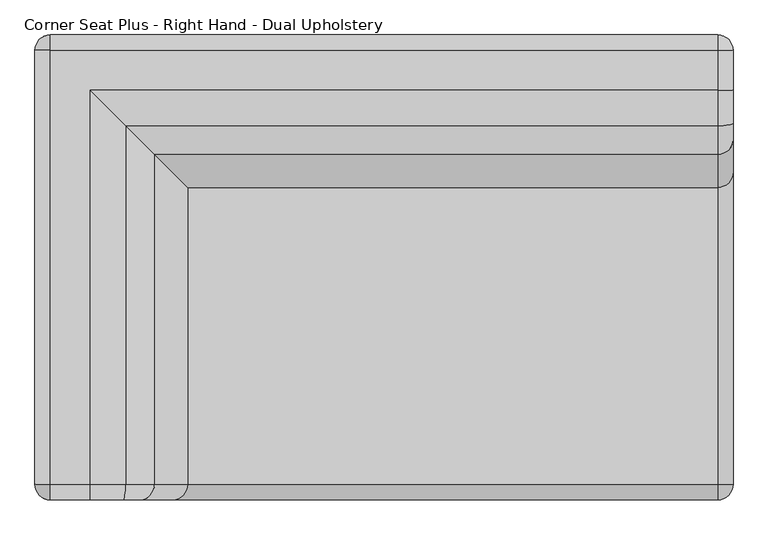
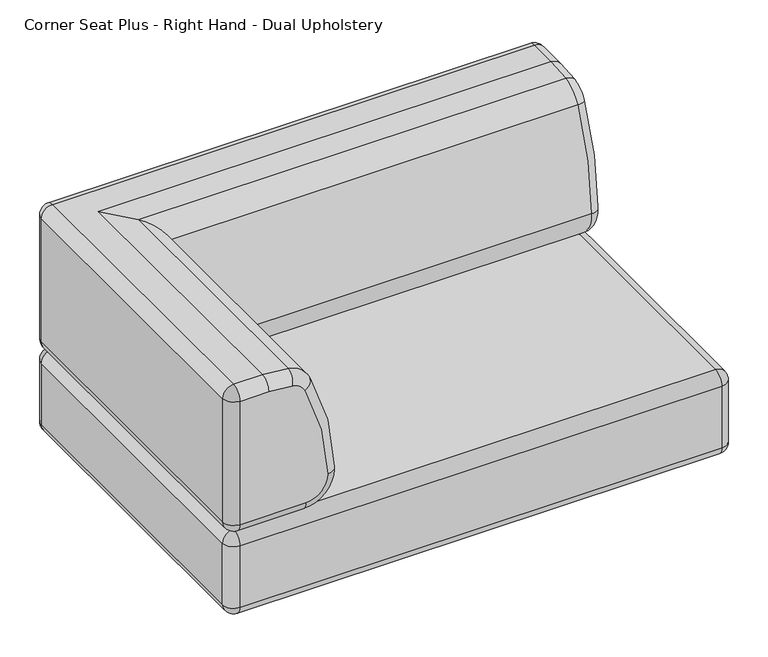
"""IFC4 building model written with IfcOpenShell, lengths in millimetres: furniture geometry, Stylex - Ambi Modular - Seat : Corner Seat Plus - Right Hand - Dual Upholstery."""

from ifc_helpers import new_model, si_unit, point, frame, origin, place, context, project, spatial, circle_curve, ellipse_curve, trimmed, source, transform, mapped, element, save
from ifc_brep_helpers import plane_surface, cylinder_surface, revolved_surface, advanced_brep


def corner_seat_plus_right_hand_dual_upholstery_e764b7b8(model_context):
    return source(origin(), model_context, "Body", "AdvancedBrep", [
        advanced_brep(
        [(546.1, 380.7944408, 773.9004878), (-546.0541429, 380.7944408, 773.9004878), (-546.0541429, 355.3485837, 799.3463449), (546.1, 355.3485837, 799.3463449), (-546.0541429, 380.7944408, 477.8149367), (546.1, 380.7944408, 477.8149367), (546.1, 355.3485837, 452.3690796), (-546.0541429, 355.3485837, 452.3690796), (546.1, 289.8044292, 799.3463449), (-480.5099884, 289.8044292, 799.3463449), (-422.7663638, 232.0608046, 794.4525268), (546.1, 232.0608046, 794.4525268), (-376.0691012, 185.3635421, 759.0490898), (546.1, 185.3635421, 759.0490898), (-321.4886677, 130.7831086, 530.5895428), (546.1, 130.7831086, 530.5895428), (-397.6618765, 206.9563173, 452.3690796), (546.1, 206.9563173, 452.3690796), (-397.6618765, -355.8055592, 452.3690796), (-546.0541429, -355.8055592, 452.3690796), (-480.5099884, -355.8055592, 799.3463449), (-422.7663638, -355.8055592, 794.4525268), (-376.0691012, -355.8055592, 759.0490898), (-321.4886677, -355.8055592, 530.5895428), (-546.0541429, -355.8055592, 799.3463449), (-571.5, -355.8055592, 477.8149367), (-571.5, 355.3485837, 477.8149367), (-571.5, 355.3485837, 773.9004878), (-571.5, -355.8055592, 773.9004878), (-397.6618765, -381.2514163, 477.8149367), (-546.0541429, -381.2514163, 477.8149367), (-346.9255783, -381.2514163, 529.9148392), (-399.0640835, -381.2514163, 748.1531073), (-427.0487182, -381.2514163, 769.3696026), (-480.5099884, -381.2514163, 773.9004878), (-546.0541429, -381.2514163, 773.9004878), (571.5458571, 355.3485837, 773.9004878), (571.5458571, 355.3485837, 477.8149367), (571.5458571, 289.8044292, 773.9004878), (571.5458571, 236.343159, 769.3696026), (571.5458571, 208.3585244, 748.1531073), (571.5458571, 156.2200192, 529.9148392), (571.5458571, 206.9563173, 477.8149367)],
        [
            (0, 1),
            (1, 2, circle_curve(frame((-546.0541429, 355.3485837, 773.9004878), z_axis=(1.0, 0.0, 0.0), x_axis=(0.0, -1.0, 0.0)), 25.4458571)),
            (2, 3),
            (3, 0, circle_curve(frame((546.1, 355.3485837, 773.9004878), z_axis=(-1.0, 0.0, 0.0), x_axis=(0.0, -1.0, 0.0)), 25.4458571)),
            (4, 5),
            (5, 6, circle_curve(frame((546.1, 355.3485837, 477.8149367), z_axis=(-1.0, 0.0, 0.0), x_axis=(0.0, -1.0, 0.0)), 25.4458571)),
            (6, 7),
            (7, 4, circle_curve(frame((-546.0541429, 355.3485837, 477.8149367), z_axis=(1.0, 0.0, 0.0), x_axis=(0.0, -1.0, 0.0)), 25.4458571)),
            (0, 5),
            (4, 1),
            (8, 9),
            (9, 10, ellipse_curve(frame((-480.5099884, 289.8044292, 456.2322814), z_axis=(0.7071067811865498, 0.7071067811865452, 0.0), x_axis=(0.7071067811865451, -0.7071067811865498, 0.0)), 485.236562, 343.1140635)),
            (10, 11),
            (11, 8, circle_curve(frame((546.1, 289.8044292, 456.2322814), z_axis=(-1.0, 0.0, 0.0), x_axis=(0.0, -1.0, 0.0)), 343.1140635)),
            (10, 12, ellipse_curve(frame((-433.4529562, 242.7473971, 731.858224), z_axis=(0.7071067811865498, 0.7071067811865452, 0.0), x_axis=(0.7071067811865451, -0.7071067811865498, 0.0)), 89.8025612, 63.5)),
            (12, 13),
            (13, 11, circle_curve(frame((546.1, 242.7473971, 731.858224), z_axis=(-1.0, 0.0, 0.0), x_axis=(0.0, -1.0, 0.0)), 63.5)),
            (12, 14, ellipse_curve(frame((-890.038375, 699.3328159, 515.5089941), z_axis=(0.7071067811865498, 0.7071067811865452, 0.0), x_axis=(0.7071067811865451, -0.7071067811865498, 0.0)), 804.3335037, 568.7496748)),
            (14, 15),
            (15, 13, circle_curve(frame((546.1, 699.3328159, 515.5089941), z_axis=(-1.0, 0.0, 0.0), x_axis=(0.0, -1.0, 0.0)), 568.7496748)),
            (14, 16, ellipse_curve(frame((-397.6618765, 206.9563173, 528.5690796), z_axis=(0.7071067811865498, 0.7071067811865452, 0.0), x_axis=(0.7071067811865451, -0.7071067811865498, 0.0)), 107.7630735, 76.2)),
            (16, 17),
            (17, 15, circle_curve(frame((546.1, 206.9563173, 528.5690796), z_axis=(-1.0, 0.0, 0.0), x_axis=(0.0, -1.0, 0.0)), 76.2)),
            (16, 18),
            (18, 19),
            (19, 7),
            (6, 17),
            (9, 20),
            (20, 21, circle_curve(frame((-480.5099884, -355.8055592, 456.2322814), z_axis=(0.0, 1.0, 0.0), x_axis=(1.0, 0.0, 0.0)), 343.1140635)),
            (21, 10),
            (21, 22, circle_curve(frame((-433.4529562, -355.8055592, 731.858224), z_axis=(0.0, 1.0, 0.0), x_axis=(1.0, 0.0, 0.0)), 63.5)),
            (22, 12),
            (22, 23, circle_curve(frame((-890.038375, -355.8055592, 515.5089941), z_axis=(0.0, 1.0, 0.0), x_axis=(1.0, 0.0, 0.0)), 568.7496748)),
            (23, 14),
            (23, 18, circle_curve(frame((-397.6618765, -355.8055592, 528.5690796), z_axis=(0.0, 1.0, 0.0), x_axis=(1.0, 0.0, 0.0)), 76.2)),
            (8, 3),
            (2, 24),
            (24, 20),
            (25, 26),
            (26, 7, circle_curve(frame((-546.0541429, 355.3485837, 477.8149367), z_axis=(0.0, -1.0, 0.0), x_axis=(0.0, 0.0, 1.0)), 25.4458571)),
            (19, 25, circle_curve(frame((-546.0541429, -355.8055592, 477.8149367), z_axis=(0.0, 1.0, 0.0), x_axis=(0.0, 0.0, 1.0)), 25.4458571)),
            (27, 28),
            (28, 24, circle_curve(frame((-546.0541429, -355.8055592, 773.9004878), z_axis=(0.0, 1.0, 0.0), x_axis=(0.0, 0.0, 1.0)), 25.4458571)),
            (2, 27, circle_curve(frame((-546.0541429, 355.3485837, 773.9004878), z_axis=(0.0, -1.0, 0.0), x_axis=(0.0, 0.0, 1.0)), 25.4458571)),
            (25, 28),
            (27, 26),
            (26, 4, circle_curve(frame((-546.0541429, 355.3485837, 477.8149367), z_axis=(0.0, 0.0, -1.0), x_axis=(0.0, 1.0, 0.0)), 25.4458571)),
            (27, 1, circle_curve(frame((-546.0541429, 355.3485837, 773.9004878), z_axis=(0.0, 0.0, -1.0), x_axis=(0.0, 1.0, 0.0)), 25.4458571)),
            (18, 29, circle_curve(frame((-397.6618765, -355.8055592, 477.8149367), z_axis=(-1.0, 0.0, 0.0), x_axis=(0.0, 0.0, 1.0)), 25.4458571)),
            (29, 30),
            (30, 19, circle_curve(frame((-546.0541429, -355.8055592, 477.8149367), z_axis=(1.0, 0.0, 0.0), x_axis=(0.0, 0.0, 1.0)), 25.4458571)),
            (23, 31, circle_curve(frame((-346.9255783, -355.8055592, 529.9148392), z_axis=(0.026515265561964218, 0.0, -0.9996484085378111), x_axis=(-0.9996484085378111, 0.0, -0.026515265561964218)), 25.4458571)),
            (31, 29, circle_curve(frame((-397.6618765, -381.2514163, 528.5690796), z_axis=(0.0, 1.0, 0.0), x_axis=(0.0, 0.0, -1.0)), 50.7541429)),
            (22, 32, circle_curve(frame((-399.0640835, -355.8055592, 748.1531073), z_axis=(0.4282026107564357, 0.0, -0.9036827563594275), x_axis=(-0.9036827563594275, 0.0, -0.4282026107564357)), 25.4458571)),
            (32, 31, circle_curve(frame((-890.038375, -381.2514163, 515.5089941), z_axis=(0.0, 1.0, 0.0), x_axis=(0.9996484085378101, 0.0, 0.026515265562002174)), 543.3038177)),
            (21, 33, circle_curve(frame((-427.0487182, -355.8055592, 769.3696026), z_axis=(0.9857370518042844, 0.0, -0.16829279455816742), x_axis=(-0.16829279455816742, 0.0, -0.9857370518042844)), 25.4458571)),
            (33, 32, circle_curve(frame((-433.4529562, -381.2514163, 731.858224), z_axis=(0.0, 1.0, 0.0), x_axis=(0.9036827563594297, 0.0, 0.42820261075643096)), 38.0541429)),
            (20, 34, circle_curve(frame((-480.5099884, -355.8055592, 773.9004878), z_axis=(1.0, 0.0, 0.0), x_axis=(0.0, 0.0, -1.0)), 25.4458571)),
            (34, 33, circle_curve(frame((-480.5099884, -381.2514163, 456.2322814), z_axis=(0.0, 1.0, 0.0), x_axis=(0.1682927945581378, 0.0, 0.9857370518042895)), 317.6682064)),
            (24, 35, circle_curve(frame((-546.0541429, -355.8055592, 773.9004878), z_axis=(1.0, 0.0, 0.0), x_axis=(0.0, 0.0, -1.0)), 25.4458571)),
            (35, 34),
            (35, 30),
            (30, 25, circle_curve(frame((-546.0541429, -355.8055592, 477.8149367), z_axis=(0.0, 0.0, -1.0), x_axis=(0.0, -1.0, 0.0)), 25.4458571)),
            (35, 28, circle_curve(frame((-546.0541429, -355.8055592, 773.9004878), z_axis=(0.0, 0.0, -1.0), x_axis=(0.0, -1.0, 0.0)), 25.4458571)),
            (36, 37),
            (37, 5, circle_curve(frame((546.1, 355.3485837, 477.8149367), z_axis=(0.0, 0.0, 1.0), x_axis=(0.0, 1.0, 0.0)), 25.4458571)),
            (0, 36, circle_curve(frame((546.1, 355.3485837, 773.9004878), z_axis=(0.0, 0.0, -1.0), x_axis=(0.0, 1.0, 0.0)), 25.4458571)),
            (37, 6, circle_curve(frame((546.1, 355.3485837, 477.8149367), z_axis=(0.0, 1.0, 0.0), x_axis=(-1.0, 0.0, 0.0)), 25.4458571)),
            (3, 36, circle_curve(frame((546.1, 355.3485837, 773.9004878), z_axis=(0.0, 1.0, 0.0), x_axis=(-1.0, 0.0, 0.0)), 25.4458571)),
            (8, 38, circle_curve(frame((546.1, 289.8044292, 773.9004878), z_axis=(0.0, 1.0, 0.0), x_axis=(0.0, 0.0, 1.0)), 25.4458571)),
            (38, 36),
            (38, 39, circle_curve(frame((571.5458571, 289.8044292, 456.2322814), z_axis=(1.0, 0.0, 0.0), x_axis=(0.0, 0.0, 1.0)), 317.6682064)),
            (39, 40, circle_curve(frame((571.5458571, 242.7473971, 731.858224), z_axis=(1.0, 0.0, 0.0), x_axis=(0.0, -0.16829279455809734, 0.9857370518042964)), 38.0541429)),
            (40, 41, circle_curve(frame((571.5458571, 699.3328159, 515.5089941), z_axis=(1.0, 0.0, 0.0), x_axis=(0.0, -0.9036827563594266, 0.42820261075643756)), 543.3038177)),
            (41, 42, circle_curve(frame((571.5458571, 206.9563173, 528.5690796), z_axis=(1.0, 0.0, 0.0), x_axis=(0.0, -0.9996484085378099, 0.02651526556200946)), 50.7541429)),
            (42, 37),
            (11, 39, circle_curve(frame((546.1, 236.343159, 769.3696026), z_axis=(0.0, 0.9857370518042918, 0.16829279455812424), x_axis=(0.0, -0.16829279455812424, 0.9857370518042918)), 25.4458571)),
            (13, 40, circle_curve(frame((546.1, 208.3585244, 748.1531073), z_axis=(0.0, 0.42820261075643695, 0.9036827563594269), x_axis=(0.0, -0.9036827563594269, 0.42820261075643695)), 25.4458571)),
            (15, 41, circle_curve(frame((546.1, 156.2200192, 529.9148392), z_axis=(0.0, 0.02651526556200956, 0.9996484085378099), x_axis=(0.0, -0.9996484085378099, 0.02651526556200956)), 25.4458571)),
            (17, 42, circle_curve(frame((546.1, 206.9563173, 477.8149367), z_axis=(0.0, -1.0, 0.0), x_axis=(0.0, 0.0, -1.0)), 25.4458571)),
        ],
        [
            cylinder_surface(frame((546.1, 355.3485837, 773.9004878), z_axis=(-1.0, 0.0, 0.0), x_axis=(0.0, -1.0, 0.0)), 25.4458571),
            cylinder_surface(frame((546.1, 355.3485837, 477.8149367), z_axis=(-1.0, 0.0, 0.0), x_axis=(0.0, -1.0, 0.0)), 25.4458571),
            plane_surface(frame((-546.0541429, 380.7944408, 773.9004878), z_axis=(0.0, 1.0, 0.0), x_axis=(1.0, 0.0, 0.0))),
            cylinder_surface(frame((546.1, 289.8044292, 456.2322814), z_axis=(1.0, 0.0, 0.0), x_axis=(0.0, -1.0, 0.0)), 343.1140635),
            cylinder_surface(frame((546.1, 242.7473971, 731.858224), z_axis=(1.0, 0.0, 0.0), x_axis=(0.0, -1.0, 0.0)), 63.5),
            cylinder_surface(frame((546.1, 699.3328159, 515.5089941), z_axis=(1.0, 0.0, 0.0), x_axis=(0.0, -1.0, 0.0)), 568.7496748),
            cylinder_surface(frame((546.1, 206.9563173, 528.5690796), z_axis=(1.0, 0.0, 0.0), x_axis=(0.0, -1.0, 0.0)), 76.2),
            plane_surface(frame((546.1, 206.9563173, 452.3690796), z_axis=(0.0, 0.0, -1.0), x_axis=(-1.0, 0.0, 0.0))),
            cylinder_surface(frame((-480.5099884, 380.7944408, 456.2322814), z_axis=(0.0, 1.0, 0.0), x_axis=(1.0, 0.0, 0.0)), 343.1140635),
            cylinder_surface(frame((-433.4529562, 380.7944408, 731.858224), z_axis=(0.0, 1.0, 0.0), x_axis=(1.0, 0.0, 0.0)), 63.5),
            cylinder_surface(frame((-890.038375, 380.7944408, 515.5089941), z_axis=(0.0, 1.0, 0.0), x_axis=(1.0, 0.0, 0.0)), 568.7496748),
            cylinder_surface(frame((-397.6618765, 380.7944408, 528.5690796), z_axis=(0.0, 1.0, 0.0), x_axis=(1.0, 0.0, 0.0)), 76.2),
            plane_surface(frame((546.1, 355.3485837, 799.3463449), z_axis=(0.0, 0.0, 1.0), x_axis=(-1.0, 0.0, 0.0))),
            cylinder_surface(frame((-546.0541429, 355.3485837, 477.8149367), z_axis=(0.0, -1.0, 0.0), x_axis=(0.0, 0.0, 1.0)), 25.4458571),
            cylinder_surface(frame((-546.0541429, 355.3485837, 773.9004878), z_axis=(0.0, -1.0, 0.0), x_axis=(0.0, 0.0, 1.0)), 25.4458571),
            plane_surface(frame((-571.5, -355.8055592, 773.9004878), z_axis=(-1.0, 0.0, 0.0), x_axis=(0.0, 1.0, 0.0))),
            revolved_surface(trimmed(ellipse_curve(frame((-546.0541429, 355.3485837, 477.8149367), z_axis=(-1.0, 0.0, 0.0), x_axis=(0.0, -1.0, 0.0)), 25.4458571, 25.4458571), [point((-546.0541429, 380.7944408, 477.8149367))], [point((-546.0541429, 355.3485837, 452.3690796))], True, "CARTESIAN"), (-546.0541429, 355.3485837, 799.3463449), (0.0, 0.0, -1.0)),
            cylinder_surface(frame((-546.0541429, 355.3485837, 799.3463449), z_axis=(0.0, 0.0, -1.0), x_axis=(0.0, 1.0, 0.0)), 25.4458571),
            revolved_surface(trimmed(ellipse_curve(frame((-546.0541429, 355.3485837, 773.9004878), z_axis=(-1.0, 0.0, 0.0), x_axis=(0.0, -1.0, 0.0)), 25.4458571, 25.4458571), [point((-546.0541429, 355.3485837, 799.3463449))], [point((-546.0541429, 380.7944408, 773.9004878))], True, "CARTESIAN"), (-546.0541429, 355.3485837, 799.3463449), (0.0, 0.0, -1.0)),
            cylinder_surface(frame((-546.0541429, -355.8055592, 477.8149367), z_axis=(-1.0, 0.0, 0.0), x_axis=(0.0, 0.0, 1.0)), 25.4458571),
            revolved_surface(trimmed(ellipse_curve(frame((-397.6618765, -355.8055592, 477.8149367), z_axis=(-1.0, 0.0, 0.0), x_axis=(0.0, 0.0, 1.0)), 25.4458571, 25.4458571), [point((-397.6618765, -355.8055592, 452.3690796))], [point((-397.6618765, -381.2514163, 477.8149367))], True, "CARTESIAN"), (-397.6618765, -355.8055592, 528.5690796), (0.0, -1.0, 0.0)),
            revolved_surface(trimmed(ellipse_curve(frame((-346.9255783, -355.8055592, 529.9148392), z_axis=(0.02651526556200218, 0.0, -0.9996484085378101), x_axis=(-0.9996484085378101, 0.0, -0.02651526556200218)), 25.4458571, 25.4458571), [point((-321.4886677, -355.8055592, 530.5895428))], [point((-346.9255783, -381.2514163, 529.9148392))], True, "CARTESIAN"), (-890.038375, -355.8055592, 515.5089941), (0.0, -1.0, 0.0)),
            revolved_surface(trimmed(ellipse_curve(frame((-399.0640835, -355.8055592, 748.1531073), z_axis=(0.42820261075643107, 0.0, -0.9036827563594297), x_axis=(-0.9036827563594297, 0.0, -0.42820261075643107)), 25.4458571, 25.4458571), [point((-376.0691012, -355.8055592, 759.0490898))], [point((-399.0640835, -381.2514163, 748.1531073))], True, "CARTESIAN"), (-433.4529562, -355.8055592, 731.858224), (0.0, -1.0, 0.0)),
            revolved_surface(trimmed(ellipse_curve(frame((-427.0487182, -355.8055592, 769.3696026), z_axis=(0.9857370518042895, 0.0, -0.16829279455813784), x_axis=(-0.16829279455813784, 0.0, -0.9857370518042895)), 25.4458571, 25.4458571), [point((-422.7663638, -355.8055592, 794.4525268))], [point((-427.0487182, -381.2514163, 769.3696026))], True, "CARTESIAN"), (-480.5099884, -355.8055592, 456.2322814), (0.0, -1.0, 0.0)),
            cylinder_surface(frame((-480.5099884, -355.8055592, 773.9004878), z_axis=(1.0, 0.0, 0.0), x_axis=(0.0, 0.0, -1.0)), 25.4458571),
            plane_surface(frame((-433.4529562, -381.2514163, 769.9123669), z_axis=(0.0, -1.0, 0.0), x_axis=(-1.0, 0.0, 0.0))),
            revolved_surface(trimmed(ellipse_curve(frame((-546.0541429, -355.8055592, 477.8149367), z_axis=(-1.0, 0.0, 0.0), x_axis=(0.0, 1.0, 0.0)), 25.4458571, 25.4458571), [point((-546.0541429, -355.8055592, 452.3690796))], [point((-546.0541429, -381.2514163, 477.8149367))], True, "CARTESIAN"), (-546.0541429, -355.8055592, 799.3463449), (0.0, 0.0, 1.0)),
            cylinder_surface(frame((-546.0541429, -355.8055592, 799.3463449), z_axis=(0.0, 0.0, 1.0), x_axis=(0.0, -1.0, 0.0)), 25.4458571),
            revolved_surface(trimmed(ellipse_curve(frame((-546.0541429, -355.8055592, 773.9004878), z_axis=(-1.0, 0.0, 0.0), x_axis=(0.0, 1.0, 0.0)), 25.4458571, 25.4458571), [point((-546.0541429, -381.2514163, 773.9004878))], [point((-546.0541429, -355.8055592, 799.3463449))], True, "CARTESIAN"), (-546.0541429, -355.8055592, 799.3463449), (0.0, 0.0, 1.0)),
            cylinder_surface(frame((546.1, 355.3485837, 799.3463449), z_axis=(0.0, 0.0, -1.0), x_axis=(0.0, 1.0, 0.0)), 25.4458571),
            revolved_surface(trimmed(ellipse_curve(frame((546.1, 355.3485837, 477.8149367), z_axis=(-1.0, 0.0, 0.0), x_axis=(0.0, -1.0, 0.0)), 25.4458571, 25.4458571), [point((546.1, 380.7944408, 477.8149367))], [point((546.1, 355.3485837, 452.3690796))], True, "CARTESIAN"), (546.1, 355.3485837, 799.3463449), (0.0, 0.0, -1.0)),
            revolved_surface(trimmed(ellipse_curve(frame((546.1, 355.3485837, 773.9004878), z_axis=(-1.0, 0.0, 0.0), x_axis=(0.0, -1.0, 0.0)), 25.4458571, 25.4458571), [point((546.1, 355.3485837, 799.3463449))], [point((546.1, 380.7944408, 773.9004878))], True, "CARTESIAN"), (546.1, 355.3485837, 799.3463449), (0.0, 0.0, -1.0)),
            cylinder_surface(frame((546.1, 355.3485837, 773.9004878), z_axis=(0.0, 1.0, 0.0), x_axis=(0.0, 0.0, 1.0)), 25.4458571),
            plane_surface(frame((571.5458571, 355.3485837, 773.9004878), z_axis=(1.0, 0.0, 0.0), x_axis=(0.0, -1.0, 0.0))),
            revolved_surface(trimmed(ellipse_curve(frame((546.1, 289.8044292, 773.9004878), z_axis=(0.0, 1.0, 0.0), x_axis=(0.0, 0.0, 1.0)), 25.4458571, 25.4458571), [point((546.1, 289.8044292, 799.3463449))], [point((571.5458571, 289.8044292, 773.9004878))], True, "CARTESIAN"), (546.1, 289.8044292, 456.2322814), (1.0, 0.0, 0.0)),
            revolved_surface(trimmed(ellipse_curve(frame((546.1, 236.343159, 769.3696026), z_axis=(0.0, 0.9857370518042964, 0.16829279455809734), x_axis=(0.0, -0.16829279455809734, 0.9857370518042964)), 25.4458571, 25.4458571), [point((546.1, 232.0608046, 794.4525268))], [point((571.5458571, 236.343159, 769.3696026))], True, "CARTESIAN"), (546.1, 242.7473971, 731.858224), (1.0, 0.0, 0.0)),
            revolved_surface(trimmed(ellipse_curve(frame((546.1, 208.3585244, 748.1531073), z_axis=(0.0, 0.4282026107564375, 0.9036827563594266), x_axis=(0.0, -0.9036827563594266, 0.4282026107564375)), 25.4458571, 25.4458571), [point((546.1, 185.3635421, 759.0490898))], [point((571.5458571, 208.3585244, 748.1531073))], True, "CARTESIAN"), (546.1, 699.3328159, 515.5089941), (1.0, 0.0, 0.0)),
            revolved_surface(trimmed(ellipse_curve(frame((546.1, 156.2200192, 529.9148392), z_axis=(0.0, 0.026515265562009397, 0.9996484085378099), x_axis=(0.0, -0.9996484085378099, 0.026515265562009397)), 25.4458571, 25.4458571), [point((546.1, 130.7831086, 530.5895428))], [point((571.5458571, 156.2200192, 529.9148392))], True, "CARTESIAN"), (546.1, 206.9563173, 528.5690796), (1.0, 0.0, 0.0)),
            cylinder_surface(frame((546.1, 206.9563173, 477.8149367), z_axis=(0.0, -1.0, 0.0), x_axis=(0.0, 0.0, -1.0)), 25.4458571),
        ],
        [
            (0, [[1, 2, 3, 4]]),
            (1, [[5, 6, 7, 8]]),
            (2, [[-1, 9, -5, 10]]),
            (3, [[11, 12, 13, 14]]),
            (4, [[-13, 15, 16, 17]]),
            (5, [[-16, 18, 19, 20]]),
            (6, [[-19, 21, 22, 23]]),
            (7, [[-22, 24, 25, 26, -7, 27]]),
            (8, [[-12, 28, 29, 30]]),
            (9, [[-15, -30, 31, 32]]),
            (10, [[-18, -32, 33, 34]]),
            (11, [[-21, -34, 35, -24]]),
            (12, [[-11, 36, -3, 37, 38, -28]]),
            (13, [[39, 40, -26, 41]]),
            (14, [[42, 43, -37, 44]]),
            (15, [[-39, 45, -42, 46]]),
            (16, [[47, -8, -40]]),
            (17, [[-47, -46, 48, -10]]),
            (18, [[-48, -44, -2]]),
            (19, [[49, 50, 51, -25]]),
            (20, [[-49, -35, 52, 53]]),
            (21, [[-52, -33, 54, 55]]),
            (22, [[-54, -31, 56, 57]]),
            (23, [[-56, -29, 58, 59]]),
            (24, [[-58, -38, 60, 61]]),
            (25, [[-50, -53, -55, -57, -59, -61, 62]]),
            (26, [[63, -41, -51]]),
            (27, [[-63, -62, 64, -45]]),
            (28, [[-64, -60, -43]]),
            (29, [[65, 66, -9, 67]]),
            (30, [[-66, 68, -6]]),
            (31, [[-67, -4, 69]]),
            (32, [[70, 71, -69, -36]]),
            (33, [[-71, 72, 73, 74, 75, 76, -65]]),
            (34, [[-70, -14, 77, -72]]),
            (35, [[-73, -77, -17, 78]]),
            (36, [[-74, -78, -20, 79]]),
            (37, [[-75, -79, -23, 80]]),
            (38, [[-76, -80, -27, -68]]),
        ],
    ),
        advanced_brep(
        [(546.1, -381.2055592, 279.4), (546.1, -381.2055592, 426.9232225), (-546.1, -381.2055592, 426.9232225), (-546.1, -381.2055592, 279.4), (546.1, -355.8055592, 452.3232225), (546.1, 355.3944408, 452.3232225), (-546.1, 355.3944408, 452.3232225), (-546.1, -355.8055592, 452.3232225), (546.1, 380.7944408, 426.9232225), (546.1, 380.7944408, 279.4), (-546.1, 380.7944408, 279.4), (-546.1, 380.7944408, 426.9232225), (546.1, 355.3944408, 254.0), (546.1, -355.8055592, 254.0), (-546.1, -355.8055592, 254.0), (-546.1, 355.3944408, 254.0), (-571.5, 355.3944408, 426.9232225), (-571.5, -355.8055592, 426.9232225), (571.5, -355.8055592, 426.9232225), (571.5, 355.3944408, 426.9232225), (-571.5, 355.3944408, 279.4), (571.5, 355.3944408, 279.4), (-571.5, -355.8055592, 279.4), (571.5, -355.8055592, 279.4)],
        [
            (0, 1),
            (1, 2),
            (2, 3),
            (3, 0),
            (4, 5),
            (5, 6),
            (6, 7),
            (7, 4),
            (8, 9),
            (9, 10),
            (10, 11),
            (11, 8),
            (12, 13),
            (13, 14),
            (14, 15),
            (15, 12),
            (6, 16, circle_curve(frame((-546.1, 355.3944408, 426.9232225), z_axis=(0.0, -1.0, 0.0), x_axis=(0.0, 0.0, 1.0)), 25.4)),
            (16, 17),
            (17, 7, circle_curve(frame((-546.1, -355.8055592, 426.9232225), z_axis=(0.0, 1.0, 0.0), x_axis=(0.0, 0.0, 1.0)), 25.4)),
            (4, 18, circle_curve(frame((546.1, -355.8055592, 426.9232225), z_axis=(0.0, 1.0, 0.0), x_axis=(0.0, 0.0, 1.0)), 25.4)),
            (18, 19),
            (19, 5, circle_curve(frame((546.1, 355.3944408, 426.9232225), z_axis=(0.0, -1.0, 0.0), x_axis=(0.0, 0.0, 1.0)), 25.4)),
            (10, 20, circle_curve(frame((-546.1, 355.3944408, 279.4), z_axis=(0.0, 0.0, 1.0), x_axis=(0.0, 1.0, 0.0)), 25.4)),
            (20, 16),
            (16, 11, circle_curve(frame((-546.1, 355.3944408, 426.9232225), z_axis=(0.0, 0.0, -1.0), x_axis=(0.0, 1.0, 0.0)), 25.4)),
            (8, 19, circle_curve(frame((546.1, 355.3944408, 426.9232225), z_axis=(0.0, 0.0, -1.0), x_axis=(0.0, 1.0, 0.0)), 25.4)),
            (19, 21),
            (21, 9, circle_curve(frame((546.1, 355.3944408, 279.4), z_axis=(0.0, 0.0, 1.0), x_axis=(0.0, 1.0, 0.0)), 25.4)),
            (14, 22, circle_curve(frame((-546.1, -355.8055592, 279.4), z_axis=(0.0, 1.0, 0.0), x_axis=(0.0, 0.0, -1.0)), 25.4)),
            (22, 20),
            (20, 15, circle_curve(frame((-546.1, 355.3944408, 279.4), z_axis=(0.0, -1.0, 0.0), x_axis=(0.0, 0.0, -1.0)), 25.4)),
            (12, 21, circle_curve(frame((546.1, 355.3944408, 279.4), z_axis=(0.0, -1.0, 0.0), x_axis=(0.0, 0.0, -1.0)), 25.4)),
            (21, 23),
            (23, 13, circle_curve(frame((546.1, -355.8055592, 279.4), z_axis=(0.0, 1.0, 0.0), x_axis=(0.0, 0.0, -1.0)), 25.4)),
            (2, 17, circle_curve(frame((-546.1, -355.8055592, 426.9232225), z_axis=(0.0, 0.0, -1.0), x_axis=(0.0, -1.0, 0.0)), 25.4)),
            (17, 22),
            (22, 3, circle_curve(frame((-546.1, -355.8055592, 279.4), z_axis=(0.0, 0.0, 1.0), x_axis=(0.0, -1.0, 0.0)), 25.4)),
            (0, 23, circle_curve(frame((546.1, -355.8055592, 279.4), z_axis=(0.0, 0.0, 1.0), x_axis=(0.0, -1.0, 0.0)), 25.4)),
            (23, 18),
            (18, 1, circle_curve(frame((546.1, -355.8055592, 426.9232225), z_axis=(0.0, 0.0, -1.0), x_axis=(0.0, -1.0, 0.0)), 25.4)),
            (1, 4, circle_curve(frame((546.1, -355.8055592, 426.9232225), z_axis=(-1.0, 0.0, 0.0), x_axis=(0.0, 0.0, 1.0)), 25.4)),
            (7, 2, circle_curve(frame((-546.1, -355.8055592, 426.9232225), z_axis=(1.0, 0.0, 0.0), x_axis=(0.0, 0.0, 1.0)), 25.4)),
            (3, 14, circle_curve(frame((-546.1, -355.8055592, 279.4), z_axis=(1.0, 0.0, 0.0), x_axis=(0.0, 0.0, -1.0)), 25.4)),
            (13, 0, circle_curve(frame((546.1, -355.8055592, 279.4), z_axis=(-1.0, 0.0, 0.0), x_axis=(0.0, 0.0, -1.0)), 25.4)),
            (9, 12, circle_curve(frame((546.1, 355.3944408, 279.4), z_axis=(-1.0, 0.0, 0.0), x_axis=(0.0, 0.0, -1.0)), 25.4)),
            (15, 10, circle_curve(frame((-546.1, 355.3944408, 279.4), z_axis=(1.0, 0.0, 0.0), x_axis=(0.0, 0.0, -1.0)), 25.4)),
            (6, 11, circle_curve(frame((-546.1, 355.3944408, 426.9232225), z_axis=(-1.0, 0.0, 0.0), x_axis=(0.0, 0.0, 1.0)), 25.4)),
            (8, 5, circle_curve(frame((546.1, 355.3944408, 426.9232225), z_axis=(1.0, 0.0, 0.0), x_axis=(0.0, 0.0, 1.0)), 25.4)),
        ],
        [
            plane_surface(frame((546.1, -381.2055592, 254.0), z_axis=(0.0, -1.0, 0.0), x_axis=(0.0, 0.0, 1.0))),
            plane_surface(frame((546.1, -381.2055592, 452.3232225), z_axis=(0.0, 0.0, 1.0), x_axis=(0.0, 1.0, 0.0))),
            plane_surface(frame((546.1, 380.7944408, 452.3232225), z_axis=(0.0, 1.0, 0.0), x_axis=(0.0, 0.0, -1.0))),
            plane_surface(frame((546.1, 380.7944408, 254.0), z_axis=(0.0, 0.0, -1.0), x_axis=(0.0, -1.0, 0.0))),
            cylinder_surface(frame((-546.1, -381.2055592, 426.9232225), z_axis=(0.0, -1.0, 0.0), x_axis=(0.0, 0.0, 1.0)), 25.4),
            cylinder_surface(frame((546.1, -381.2055592, 426.9232225), z_axis=(0.0, -1.0, 0.0), x_axis=(0.0, 0.0, 1.0)), 25.4),
            cylinder_surface(frame((-546.1, 355.3944408, 452.3232225), z_axis=(0.0, 0.0, 1.0), x_axis=(0.0, 1.0, 0.0)), 25.4),
            cylinder_surface(frame((546.1, 355.3944408, 452.3232225), z_axis=(0.0, 0.0, 1.0), x_axis=(0.0, 1.0, 0.0)), 25.4),
            cylinder_surface(frame((-546.1, 380.7944408, 279.4), z_axis=(0.0, 1.0, 0.0), x_axis=(0.0, 0.0, -1.0)), 25.4),
            cylinder_surface(frame((546.1, 380.7944408, 279.4), z_axis=(0.0, 1.0, 0.0), x_axis=(0.0, 0.0, -1.0)), 25.4),
            cylinder_surface(frame((-546.1, -355.8055592, 254.0), z_axis=(0.0, 0.0, -1.0), x_axis=(0.0, -1.0, 0.0)), 25.4),
            cylinder_surface(frame((546.1, -355.8055592, 254.0), z_axis=(0.0, 0.0, -1.0), x_axis=(0.0, -1.0, 0.0)), 25.4),
            plane_surface(frame((571.5, 355.3944408, 426.9232225), z_axis=(1.0, 0.0, 0.0), x_axis=(0.0, 0.0, 1.0))),
            plane_surface(frame((-571.5, 355.3944408, 426.9232225), z_axis=(-1.0, 0.0, 0.0), x_axis=(0.0, 0.0, -1.0))),
            cylinder_surface(frame((-571.5, -355.8055592, 426.9232225), z_axis=(-1.0, 0.0, 0.0), x_axis=(0.0, 0.0, 1.0)), 25.4),
            revolved_surface(trimmed(ellipse_curve(frame((546.1, -355.8055592, 426.9232225), z_axis=(0.0, -1.0, 0.0), x_axis=(0.0, 0.0, -1.0)), 25.4, 25.4), [point((571.5, -355.8055592, 426.9232225))], [point((546.1, -355.8055592, 452.3232225))], True, "CARTESIAN"), (-571.5, -355.8055592, 426.9232225), (-1.0, 0.0, 0.0)),
            revolved_surface(trimmed(ellipse_curve(frame((-546.1, -355.8055592, 426.9232225), z_axis=(0.0, -1.0, 0.0), x_axis=(0.0, 0.0, -1.0)), 25.4, 25.4), [point((-546.1, -355.8055592, 452.3232225))], [point((-571.5, -355.8055592, 426.9232225))], True, "CARTESIAN"), (-571.5, -355.8055592, 426.9232225), (-1.0, 0.0, 0.0)),
            cylinder_surface(frame((571.5, -355.8055592, 279.4), z_axis=(1.0, 0.0, 0.0), x_axis=(0.0, 0.0, -1.0)), 25.4),
            revolved_surface(trimmed(ellipse_curve(frame((-546.1, -355.8055592, 279.4), z_axis=(0.0, -1.0, 0.0), x_axis=(0.0, 0.0, 1.0)), 25.4, 25.4), [point((-571.5, -355.8055592, 279.4))], [point((-546.1, -355.8055592, 254.0))], True, "CARTESIAN"), (571.5, -355.8055592, 279.4), (1.0, 0.0, 0.0)),
            revolved_surface(trimmed(ellipse_curve(frame((546.1, -355.8055592, 279.4), z_axis=(0.0, -1.0, 0.0), x_axis=(0.0, 0.0, 1.0)), 25.4, 25.4), [point((546.1, -355.8055592, 254.0))], [point((571.5, -355.8055592, 279.4))], True, "CARTESIAN"), (571.5, -355.8055592, 279.4), (1.0, 0.0, 0.0)),
            cylinder_surface(frame((571.5, 355.3944408, 279.4), z_axis=(-1.0, 0.0, 0.0), x_axis=(0.0, 0.0, -1.0)), 25.4),
            revolved_surface(trimmed(ellipse_curve(frame((546.1, 355.3944408, 279.4), z_axis=(0.0, 1.0, 0.0), x_axis=(0.0, 0.0, 1.0)), 25.4, 25.4), [point((571.5, 355.3944408, 279.4))], [point((546.1, 355.3944408, 254.0))], True, "CARTESIAN"), (571.5, 355.3944408, 279.4), (-1.0, 0.0, 0.0)),
            revolved_surface(trimmed(ellipse_curve(frame((-546.1, 355.3944408, 279.4), z_axis=(0.0, 1.0, 0.0), x_axis=(0.0, 0.0, 1.0)), 25.4, 25.4), [point((-546.1, 355.3944408, 254.0))], [point((-571.5, 355.3944408, 279.4))], True, "CARTESIAN"), (571.5, 355.3944408, 279.4), (-1.0, 0.0, 0.0)),
            revolved_surface(trimmed(ellipse_curve(frame((-546.1, 355.3944408, 426.9232225), z_axis=(0.0, 1.0, 0.0), x_axis=(0.0, 0.0, -1.0)), 25.4, 25.4), [point((-571.5, 355.3944408, 426.9232225))], [point((-546.1, 355.3944408, 452.3232225))], True, "CARTESIAN"), (571.5, 355.3944408, 426.9232225), (1.0, 0.0, 0.0)),
            revolved_surface(trimmed(ellipse_curve(frame((546.1, 355.3944408, 426.9232225), z_axis=(0.0, 1.0, 0.0), x_axis=(0.0, 0.0, -1.0)), 25.4, 25.4), [point((546.1, 355.3944408, 452.3232225))], [point((571.5, 355.3944408, 426.9232225))], True, "CARTESIAN"), (571.5, 355.3944408, 426.9232225), (1.0, 0.0, 0.0)),
            cylinder_surface(frame((571.5, 355.3944408, 426.9232225), z_axis=(1.0, 0.0, 0.0), x_axis=(0.0, 0.0, 1.0)), 25.4),
        ],
        [
            (0, [[1, 2, 3, 4]]),
            (1, [[5, 6, 7, 8]]),
            (2, [[9, 10, 11, 12]]),
            (3, [[13, 14, 15, 16]]),
            (4, [[-7, 17, 18, 19]]),
            (5, [[-5, 20, 21, 22]]),
            (6, [[-11, 23, 24, 25]]),
            (7, [[-9, 26, 27, 28]]),
            (8, [[-15, 29, 30, 31]]),
            (9, [[-13, 32, 33, 34]]),
            (10, [[-3, 35, 36, 37]]),
            (11, [[-1, 38, 39, 40]]),
            (12, [[-21, -39, -33, -27]]),
            (13, [[-18, -24, -30, -36]]),
            (14, [[41, -8, 42, -2]]),
            (15, [[-41, -40, -20]]),
            (16, [[-42, -19, -35]]),
            (17, [[43, -14, 44, -4]]),
            (18, [[-43, -37, -29]]),
            (19, [[-44, -34, -38]]),
            (20, [[45, -16, 46, -10]]),
            (21, [[-45, -28, -32]]),
            (22, [[-46, -31, -23]]),
            (23, [[47, -25, -17]]),
            (24, [[48, -22, -26]]),
            (25, [[-47, -6, -48, -12]]),
        ],
    ),
    ])


if __name__ == "__main__":
    model = new_model("IFC4")
    model_context = context("Model", 3, world=origin())
    ifc_project = project(units=[si_unit("LENGTHUNIT", "METRE", prefix="MILLI")], contexts=[model_context])
    site = spatial("IfcSite", under=ifc_project)
    building = spatial("IfcBuilding", under=site)
    placement = place(None, origin())
    corner_seat_plus_right_hand_dual_upholstery_shape = corner_seat_plus_right_hand_dual_upholstery_e764b7b8(model_context)
    element("IfcFurniture", 1, ObjectType="Stylex - Ambi Modular - Seat : Corner Seat Plus - Right Hand - Dual Upholstery", at=placement, inside=building, context=model_context, shape_type="MappedRepresentation", body=[
        mapped(corner_seat_plus_right_hand_dual_upholstery_shape, transform((0.0, 0.0, 0.0), x_axis=(1.0, 0.0, 0.0), y_axis=(0.0, 1.0, 0.0), z_axis=(0.0, 0.0, 1.0))),
    ])
    save(model, "model.ifc")
